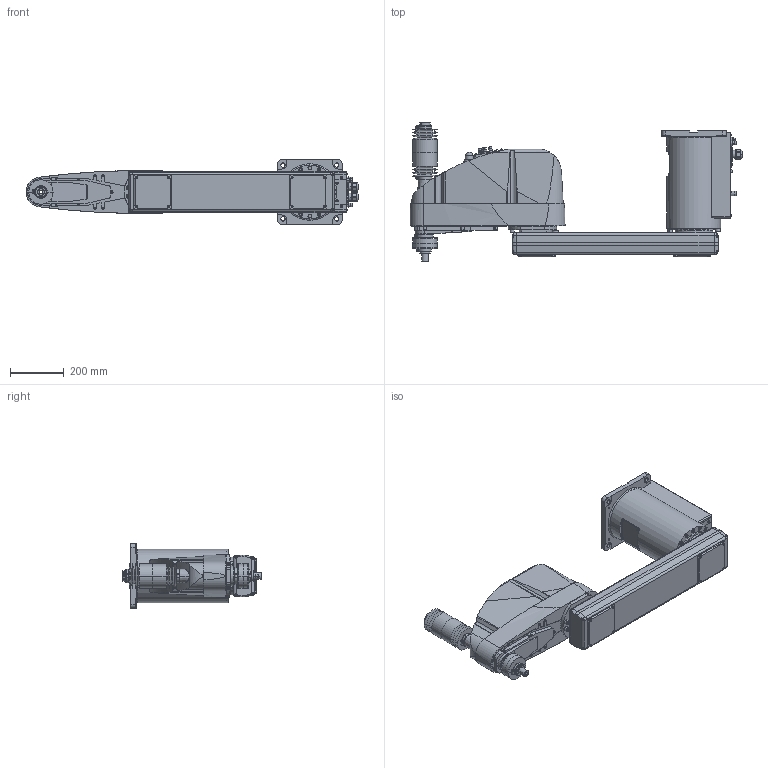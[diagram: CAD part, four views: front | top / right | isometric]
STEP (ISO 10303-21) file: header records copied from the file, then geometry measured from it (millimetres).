
FILE_DESCRIPTION( ( '' ), '1' );
FILE_NAME( '//expscmdclustefs.cadenas.external/client_exchange/iodir/jobs/output/wkb51490181_no0/STEP/G20_A01CR_2_03.stp', '2012-11-22T08:52:32', ( '' ), ( '' ), ' ', ' ', ' ' );
FILE_SCHEMA( ( 'CONFIG_CONTROL_DESIGN' ) );
Length unit declared in the file: millimetre
Products named in the file (8): 1; 2; 3; 4; 5; 6; 7; 8
Bounding box: 1234.5 x 515 x 240 mm (x, y, z)
Volume: 43479744.9 mm3; surface area: 1675949.4 mm2
Topology: 8 solids, 9 shells, 2015 faces, 4893 edges, 3169 vertices
Faces by surface type: plane 1088, cylinder 655, cone 242, torus 29, sphere 1
Entity records: 61280 total; most frequent: CARTESIAN_POINT 12348, DIRECTION 10454, ORIENTED_EDGE 9770, EDGE_CURVE 4885, AXIS2_PLACEMENT_3D 3701, VERTEX_POINT 3169, LINE 3052, VECTOR 3052
